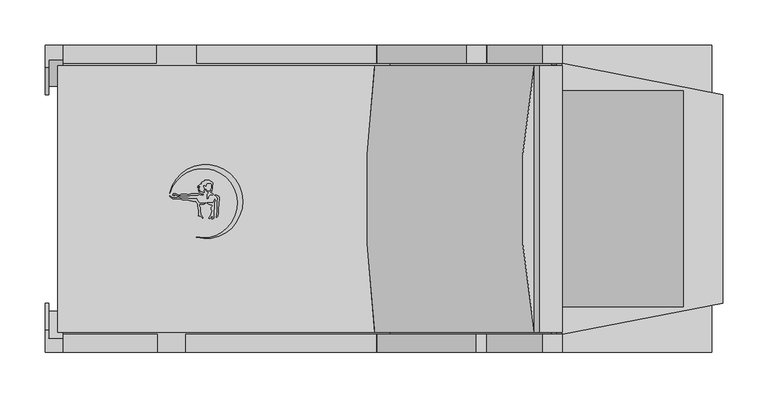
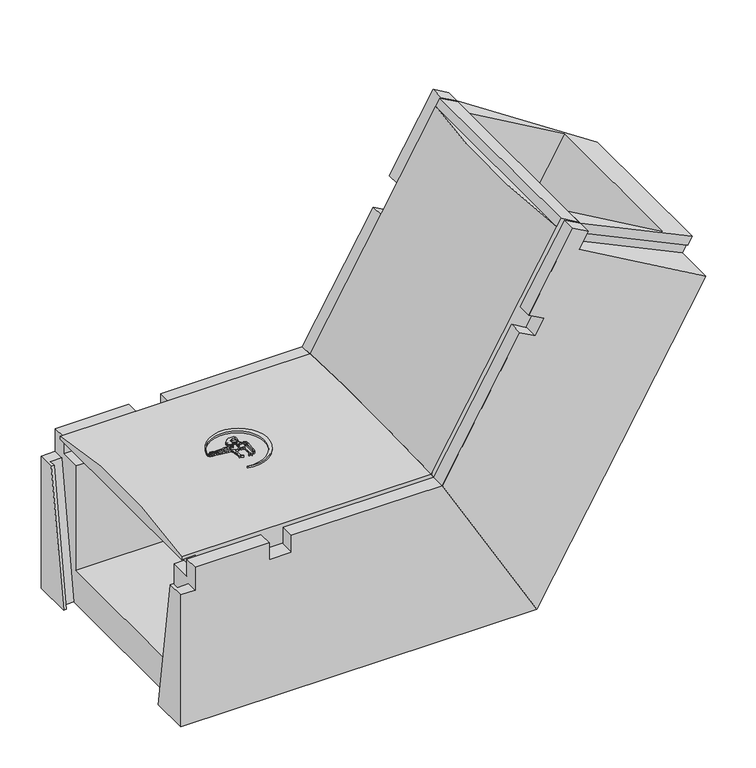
"""IFC4 building model written with IfcOpenShell, lengths in millimetres: cable carrier fitting geometry, Evotray type 2 vertical bend up : Evotray type 2 vertical bend up."""

from ifc_helpers import new_model, si_unit, point, frame, frame_2d, origin, place, context, project, spatial, polyline, circle_curve, ellipse_curve, trimmed, segment, composite_curve, outline, extrude, faceted_brep, source, transform, mapped, element, save
from ifc_brep_helpers import plane_surface, cylinder_surface, advanced_brep


def cable_carrier_fitting_7e4accfe(model_context):
    return source(origin(), model_context, "Body", "SolidModel", [
        extrude(outline(composite_curve([segment(polyline([(-200.1987673, 5.907559), (-198.7730763, 5.0844359), (-199.4820077, 4.6751342), (-202.0469375, 4.6751342), (-204.5064308, 2.2156409), (-204.5064308, 0.6319729), (-205.5639447, 0.3486129), (-205.8953119, 1.5852919), (-205.5730905, 2.7878385), (-205.5730905, 5.0146536), (-204.1065498, 6.4811943), (-204.5064308, 7.1738084), (-205.5730905, 7.7896447), (-206.4313624, 8.2851682), (-207.4244859, 9.2782918), (-207.4244859, 10.5283487), (-206.6366917, 10.0735155), (-205.5730905, 9.0099142), (-204.5064308, 8.394078), (-202.1936661, 8.394078), (-201.5617675, 9.0259766), (-201.5617675, 10.6343813), (-201.1559104, 11.3373462), (-200.9163405, 12.2314336), (-200.9163405, 16.3268685), (-201.5617675, 16.9722955), (-205.5730905, 17.3232408), (-206.3212546, 16.8912881), (-206.7531031, 16.1433045), (-206.9754965, 15.313321), (-207.2482129, 13.7666695), (-207.8042347, 14.3226912), (-208.3698905, 14.8883471), (-209.3304254, 14.8883471), (-209.8048648, 14.0665939), (-209.8048648, 13.2416885), (-209.4028177, 12.5453225), (-208.675123, 11.8176278), (-209.0717623, 10.3373496), (-209.4092623, 9.0777826), (-209.1064549, 7.3604762), (-209.907248, 7.2192748), (-211.6376932, 7.6829462), (-212.8844025, 8.2642963), (-213.6376597, 8.6155459), (-215.2371082, 8.33352), (-214.7695498, 9.1433549), (-213.1127288, 9.7463885)]), True, "CONTINUOUS"), segment(trimmed(circle_curve(frame_2d((-213.6788564, 9.4744491)), 0.6280537), [point((-213.1127288, 9.7463885))], [point((-213.8344386, 10.0829273))], True, "CARTESIAN"), True, "CONTINUOUS"), segment(polyline([(-213.8344386, 10.0829273), (-215.7814537, 10.0829273), (-215.2232755, 10.6411054), (-214.3724958, 10.9507639), (-213.5540563, 11.2486515)]), True, "CONTINUOUS"), segment(trimmed(circle_curve(frame_2d((-214.2923812, 11.2486515)), 0.7383249), [point((-213.5540563, 11.2486515))], [point((-214.2923812, 11.9869764))], True, "CARTESIAN"), True, "CONTINUOUS"), segment(polyline([(-214.2923812, 11.9869764), (-216.0001288, 11.9869764), (-216.3916504, 12.6651117), (-214.5730583, 12.9857785), (-213.2767203, 13.457607), (-213.897473, 14.0783597), (-215.8606925, 14.0783597), (-215.30811, 14.6309421), (-214.2782773, 15.2255163), (-213.603553, 15.9002407), (-212.8807357, 16.3175594), (-211.9057237, 16.8804829)]), True, "CONTINUOUS"), segment(trimmed(circle_curve(frame_2d((-212.1167091, 17.2459203)), 0.4219708), [point((-211.9057237, 16.8804829))], [point((-212.3276945, 17.6113577))], True, "CARTESIAN"), True, "CONTINUOUS"), segment(polyline([(-212.3276945, 17.6113577), (-211.7102978, 18.2287544), (-210.4076278, 18.7028875), (-209.4125713, 19.2773836), (-208.2810347, 19.4769041), (-208.6348604, 20.4490324), (-203.6348604, 20.4490324), (-202.6206866, 19.9761154), (-201.4988316, 19.6755153), (-200.4843855, 19.0898245), (-199.3757091, 17.9811481), (-199.3757091, 15.4151328), (-199.8646262, 14.5683035), (-199.8646262, 11.8362675), (-200.3536612, 10.7875287), (-200.760463, 10.0829273), (-200.760463, 8.2341629), (-201.5617675, 7.7715296), (-202.3950459, 7.6246001)]), True, "CONTINUOUS"), segment(trimmed(circle_curve(frame_2d((-201.3420944, 7.3424626)), 1.0900956), [point((-202.3950459, 7.6246001))], [point((-201.6242319, 6.2895111))], True, "CARTESIAN"), True, "CONTINUOUS"), segment(polyline([(-201.6242319, 6.2895111), (-200.1987673, 5.907559)]), True, "CONTINUOUS")], self_intersect=False)), frame((0.0, 0.0, 229.0645802), z_axis=(0.0, 0.0, 1.0), x_axis=(1.0, 0.0, 0.0)), (0.0, 0.0, 1.0), 22.5),
        extrude(outline(polyline([(-195.6420581, 3.0525563), (-197.5647021, 4.1625953), (-196.375462, 4.4812513), (-195.0006066, 3.9808448), (-192.8744575, 2.753312), (-192.462808, 1.2170154), (-192.462808, -1.5561738), (-192.8811889, -3.9289297), (-193.2073261, -13.2682758), (-193.2073261, -16.1231727), (-193.766974, -19.297094), (-194.9259981, -20.4561181), (-195.8234867, -20.4561181), (-195.1486125, -18.6019165), (-194.8396569, -16.8497423), (-194.3251997, -13.9321102), (-194.3251997, -2.6926455), (-193.883565, -0.1880111), (-194.4260419, 1.8365401), (-195.6420581, 3.0525563)])), frame((0.0, 0.0, 229.0645802), z_axis=(0.0, 0.0, 1.0), x_axis=(1.0, 0.0, 0.0)), (0.0, 0.0, 1.0), 22.5),
        extrude(outline(composite_curve([segment(polyline([(-203.070307, -4.5554644), (-201.0881056, -4.5554644), (-199.6198413, -4.2965698), (-198.3145593, -2.9912878), (-197.1344504, -0.4605362), (-196.6534984, -1.7819409), (-197.2762062, -3.117342), (-197.9468137, -4.5554644), (-197.9468137, -10.5136603), (-198.3751928, -12.943119), (-198.3751928, -21.4242609), (-199.8238515, -22.8729196), (-200.3965887, -22.3001824), (-199.7178687, -20.5578122), (-199.4597233, -19.0937972)]), True, "CONTINUOUS"), segment(trimmed(circle_curve(frame_2d((-199.8743713, -19.0937972)), 0.414648), [point((-199.4597233, -19.0937972))], [point((-200.2890194, -19.0937972))], True, "CARTESIAN"), True, "CONTINUOUS"), segment(polyline([(-200.2890194, -19.0937972), (-201.0547081, -19.8594859), (-202.3215546, -21.3692548), (-202.9770637, -22.0247639), (-203.7693849, -21.6552984), (-201.605165, -18.4467105), (-201.2992553, -16.7118106), (-200.4571975, -14.9060116), (-200.19999, -13.4473154), (-200.9884987, -12.0815782), (-200.9884987, -9.315031), (-199.6653502, -7.4454743)]), True, "CONTINUOUS"), segment(trimmed(circle_curve(frame_2d((-200.0024552, -7.2068937)), 0.4129897), [point((-199.6653502, -7.4454743))], [point((-200.2410358, -6.8697887))], True, "CARTESIAN"), True, "CONTINUOUS"), segment(polyline([(-200.2410358, -6.8697887), (-202.2448508, -6.516462), (-203.6887473, -5.843162), (-205.508748, -4.9944818), (-205.508748, -4.1255015), (-203.070307, -4.5554644)]), True, "CONTINUOUS")], self_intersect=False)), frame((0.0, 0.0, 229.0645802), z_axis=(0.0, 0.0, 1.0), x_axis=(1.0, 0.0, 0.0)), (0.0, 0.0, 1.0), 22.5),
        extrude(outline(composite_curve([segment(polyline([(-245.4819029, 2.2537302), (-243.7462291, 1.4443722), (-239.5597552, 1.4443722), (-238.4890341, 1.731271), (-237.1624965, 1.731271), (-235.4413877, 1.4443722), (-233.4350656, 0.9067798), (-232.2818775, 0.597784), (-226.5899708, 0.597784), (-223.9734749, 0.1616293), (-222.6459123, -0.19409), (-217.03167, -0.19409)]), True, "CONTINUOUS"), segment(trimmed(circle_curve(frame_2d((-208.1781038, 2.7115165)), 9.3181642), [point((-217.03167, -0.19409))], [point((-213.6774022, -4.8108435))], True, "CARTESIAN"), True, "CONTINUOUS"), segment(polyline([(-213.6774022, -4.8108435), (-210.6256174, -4.8108435), (-208.5910388, -4.632841), (-207.4520349, -4.1017147), (-207.7095548, -5.0627921), (-208.6536491, -5.6078652), (-209.612336, -5.9567987), (-212.847041, -5.8438403), (-214.0357356, -6.2764898), (-214.44473, -7.153581), (-214.3696494, -8.0117562), (-213.8907652, -8.8412079), (-213.1701597, -9.5618134), (-213.1701597, -11.3180259), (-213.53546, -12.3216801), (-213.3911934, -13.970655), (-212.8861011, -15.8556852), (-212.737982, -17.5486944), (-210.3666469, -20.2766033), (-210.5753239, -21.4600691), (-213.1701597, -18.8652332), (-214.1329913, -19.1232231), (-215.5361675, -18.8758053), (-215.2606072, -18.1187094), (-215.2606072, -15.8446539), (-215.0850033, -14.8487551), (-215.2606072, -12.8415943), (-215.6362696, -11.8094702), (-215.6362696, -9.9842873), (-216.0826053, -9.0271173), (-216.0826053, -6.6493678), (-216.3310455, -5.7221762), (-216.7830159, -4.9393406), (-217.2317276, -4.1621491), (-217.84617, -3.5477067), (-218.2800213, -2.6173096), (-221.8809595, -2.4915621), (-224.2251115, -2.1008055), (-226.2577048, -1.5561738), (-229.5993244, -1.2049554), (-231.6789374, -1.2049554), (-233.021172, -0.8453047), (-234.5447671, -0.4370587), (-235.8880204, 0.1893106), (-236.8824091, 0.1893106), (-239.5338495, 0.1893106), (-240.6460936, -0.1087143), (-242.5093755, 0.0871245), (-243.9984504, 0.3353447), (-245.6717579, 1.1156208), (-246.6476843, 2.0915471), (-247.2867674, 2.7306302), (-247.2867674, 3.5175099), (-245.4819029, 2.2537302)]), True, "CONTINUOUS")], self_intersect=False)), frame((0.0, 0.0, 229.0645802), z_axis=(0.0, 0.0, 1.0), x_axis=(1.0, 0.0, 0.0)), (0.0, 0.0, 1.0), 22.5),
        extrude(outline(composite_curve([segment(polyline([(-242.9796703, 3.7977023), (-241.956356, 3.2068915), (-243.6840165, 3.7265624), (-244.014163, 4.6441261), (-243.1758386, 5.4824506), (-240.30302, 5.4824506), (-239.318583, 5.0847122), (-238.2280942, 4.6441261), (-237.4299007, 4.1832889), (-236.1696706, 4.1832889), (-235.3486455, 4.4787), (-234.4633932, 4.9898007), (-228.0496883, 4.9898007), (-227.1941137, 4.6441261), (-226.1237116, 4.6441261), (-225.1629915, 4.9898007), (-223.9838348, 4.9898007), (-223.2654957, 5.4045339), (-217.8528405, 5.4045339), (-217.0925598, 5.6780888), (-215.8504018, 5.6780888), (-215.2746333, 6.2538574), (-213.3170698, 6.2538574), (-212.0290688, 5.7334711), (-211.0171524, 5.1492409), (-210.2127113, 4.8242256)]), True, "CONTINUOUS"), segment(trimmed(circle_curve(frame_2d((-210.6200436, 4.6596527)), 0.4393221), [point((-210.2127113, 4.8242256))], [point((-210.7846166, 4.2523203))], False, "CARTESIAN"), True, "CONTINUOUS"), segment(polyline([(-210.7846166, 4.2523203), (-211.8003453, 4.6627013), (-213.112003, 4.6627013), (-214.382433, 4.8867124), (-215.1944574, 4.5945398), (-216.3374314, 4.1832889), (-219.6816293, 4.1832889), (-220.4727027, 3.7265624), (-224.0400229, 3.7265624), (-224.9228853, 3.2168416), (-234.9228853, 3.2168416), (-237.5335493, 2.9884381), (-241.222077, 4.4787), (-243.3728446, 4.4787), (-242.9796703, 3.7977023)]), True, "CONTINUOUS")], self_intersect=False)), frame((0.0, 0.0, 229.0645802), z_axis=(0.0, 0.0, 1.0), x_axis=(1.0, 0.0, 0.0)), (0.0, 0.0, 1.0), 22.5),
        extrude(outline(composite_curve([segment(trimmed(circle_curve(frame_2d((-210.3994103, -4.8721323)), 38.3616107), [point((-217.8072471, -42.511701))], [point((-247.1109456, 6.2578432))], True, "CARTESIAN"), True, "CONTINUOUS"), segment(trimmed(circle_curve(frame_2d((-207.2700096, -2.9917986)), 40.900563), [point((-247.1109456, 6.2578432))], [point((-217.8072471, -42.511701))], False, "CARTESIAN"), True, "CONTINUOUS")], self_intersect=False)), frame((0.0, 0.0, 229.0645802), z_axis=(0.0, 0.0, 1.0), x_axis=(1.0, 0.0, 0.0)), (0.0, 0.0, 1.0), 22.5),
        advanced_brep(
        [(-3.3568052, -147.5, 205.0), (187.4647922, -147.5, 535.5127019), (162.3708892, -147.5, 550.0006735), (156.3708892, -147.5, 539.6083687), (-20.099963, -147.5, 234.0), (187.4647922, 147.5, 535.5127019), (-3.3568052, 147.5, 205.0), (-20.099963, 147.5, 234.0), (156.3500555, 147.5, 539.620397), (162.3708892, 147.5, 550.0006735)],
        [
            (0, 1),
            (1, 2),
            (2, 3),
            (3, 4),
            (4, 0),
            (5, 6),
            (6, 7),
            (7, 8),
            (8, 9),
            (9, 5),
            (1, 5),
            (9, 2),
            (6, 0),
            (4, 7, ellipse_curve(frame((347.3105378, 0.0, -402.3736546), z_axis=(-0.866025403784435, 0.0, -0.5000000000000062), x_axis=(-0.5000000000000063, 0.0, 0.8660254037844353)), 754.3011585, 653.2439654)),
            (8, 3),
            (8, 3, circle_curve(frame((707.4658067, 0.0, 221.4335697), z_axis=(0.5000000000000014, 0.0, 0.8660254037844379), x_axis=(0.0, -1.0, 0.0)), 653.2439654)),
        ],
        [
            plane_surface(frame((187.4647922, -147.5, 535.5127019), z_axis=(0.0, -1.0, 0.0), x_axis=(-0.8660254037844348, 0.0, 0.5000000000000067))),
            plane_surface(frame((187.4647922, 147.5, 535.5127019), z_axis=(0.0, 1.0, 0.0), x_axis=(0.8660254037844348, 0.0, -0.5000000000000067))),
            plane_surface(frame((187.4647922, -147.5, 535.5127019), z_axis=(0.5000000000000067, 0.0, 0.8660254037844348), x_axis=(0.0, 1.0, 0.0))),
            plane_surface(frame((-29.9149176, -147.5, 251.0), z_axis=(-0.866025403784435, 0.0, -0.5000000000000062), x_axis=(0.0, 1.0, 0.0))),
            plane_surface(frame((-3.3568052, -147.5, 205.0), z_axis=(0.866025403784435, 0.0, -0.5000000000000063), x_axis=(0.0, 1.0, 0.0))),
            plane_surface(frame((162.3708892, -147.5, 550.0006735), z_axis=(-0.8660254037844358, 0.0, 0.5000000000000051), x_axis=(-0.5000000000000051, 0.0, -0.8660254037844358))),
            plane_surface(frame((156.3708892, -147.5, 539.6083687), z_axis=(0.5000000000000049, 0.0, 0.8660254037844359), x_axis=(-0.8660254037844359, 0.0, 0.5000000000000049))),
            cylinder_surface(frame((529.2837374, 0.0, -87.1868273), z_axis=(0.5000000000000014, 0.0, 0.8660254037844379), x_axis=(0.0, -1.0, 0.0)), 653.2439654),
        ],
        [
            (0, [[1, 2, 3, 4, 5]]),
            (1, [[6, 7, 8, 9, 10]]),
            (2, [[11, -10, 12, -2]]),
            (3, [[13, -5, 14, -7]]),
            (4, [[-1, -13, -6, -11]]),
            (5, [[15, -3, -12, -9]]),
            (6, [[-15, 16]]),
            (7, [[-4, -16, -8, -14]]),
        ],
    ),
        advanced_brep(
        [(-351.0, -147.5, 205.0), (-3.3568052, -147.5, 205.0), (-20.099963, -147.5, 234.0), (-371.0, -147.5, 234.0), (-371.0, -147.5, 230.0), (-351.0, -147.5, 230.0), (-3.3568052, 147.5, 205.0), (-351.0, 147.5, 205.0), (-351.0, 147.5, 230.0), (-371.0, 147.5, 230.0), (-371.0, 147.5, 234.0), (-20.099963, 147.5, 234.0)],
        [
            (0, 1),
            (1, 2),
            (2, 3),
            (3, 4),
            (4, 5),
            (5, 0),
            (6, 7),
            (7, 8),
            (8, 9),
            (9, 10),
            (10, 11),
            (11, 6),
            (9, 4),
            (3, 10, circle_curve(frame((-371.0, 0.0, -402.3736546), z_axis=(-1.0, 0.0, 0.0), x_axis=(0.0, -1.0, 0.0)), 653.2439654)),
            (6, 1),
            (0, 7),
            (11, 2, ellipse_curve(frame((347.3105378, 0.0, -402.3736546), z_axis=(0.8660254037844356, 0.0, 0.5000000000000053), x_axis=(0.5000000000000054, 0.0, -0.8660254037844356)), 754.3011585, 653.2439654)),
            (8, 5),
        ],
        [
            plane_surface(frame((-371.0, -147.5, 205.0), z_axis=(0.0, -1.0, 0.0), x_axis=(0.0, 0.0, -1.0))),
            plane_surface(frame((-371.0, 147.5, 205.0), z_axis=(0.0, 1.0, 0.0), x_axis=(0.0, 0.0, 1.0))),
            plane_surface(frame((-371.0, -147.5, 251.0), z_axis=(-1.0, 0.0, 0.0), x_axis=(0.0, 1.0, 0.0))),
            plane_surface(frame((-371.0, -147.5, 205.0), z_axis=(0.0, 0.0, -1.0), x_axis=(0.0, 1.0, 0.0))),
            plane_surface(frame((-3.3568052, -147.5, 205.0), z_axis=(0.8660254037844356, 0.0, 0.5000000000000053), x_axis=(0.0, 1.0, 0.0))),
            plane_surface(frame((-371.0, 147.5, 230.0), z_axis=(0.0, 0.0, -1.0), x_axis=(-1.0, 0.0, 0.0))),
            plane_surface(frame((-351.0, -147.5, 230.0), z_axis=(-1.0, 0.0, 0.0), x_axis=(0.0, 0.0, -1.0))),
            cylinder_surface(frame((-371.0, 0.0, -402.3736546), z_axis=(1.0, 0.0, 0.0), x_axis=(0.0, -1.0, 0.0)), 653.2439654),
        ],
        [
            (0, [[1, 2, 3, 4, 5, 6]]),
            (1, [[7, 8, 9, 10, 11, 12]]),
            (2, [[13, -4, 14, -10]]),
            (3, [[15, -1, 16, -7]]),
            (4, [[-15, -12, 17, -2]]),
            (5, [[18, -5, -13, -9]]),
            (6, [[-18, -8, -16, -6]]),
            (7, [[-3, -17, -11, -14]]),
        ],
    ),
        faceted_brep([(-17.7905619, -170.0, 230.0), (115.0, -170.0, 0.0), (352.5, -170.0, 411.3620668), (174.9647922, -170.0, 513.8620668), (187.4647922, -170.0, 535.5127019), (165.8141571, -170.0, 548.0127019), (103.8141571, -170.0, 440.6255518), (125.4647922, -170.0, 428.1255518), (112.9647922, -170.0, 406.4749167), (91.3141571, -170.0, 418.9749167), (115.0, 170.0, 0.0), (-17.7905619, 170.0, 230.0), (81.8141571, 170.0, 402.5204341), (103.4647922, 170.0, 390.0204341), (125.9647922, 170.0, 428.9915772), (104.3141571, 170.0, 441.4915772), (165.8141571, 170.0, 548.0127019), (187.4647922, 170.0, 535.5127019), (174.9647922, 170.0, 513.8620668), (352.5, 170.0, 411.3620668), (187.4647922, -120.0, 535.5127019), (187.4647922, -150.0, 535.5127019), (365.0, -115.4, 433.0127019), (365.0, 115.4, 433.0127019), (187.4647922, 150.0, 535.5127019), (187.4647922, 120.0, 535.5127019), (321.6987298, 120.0, 458.0127019), (321.6987298, -120.0, 458.0127019), (165.8141571, -150.0, 548.0127019), (165.8141571, 150.0, 548.0127019), (103.8141571, -150.0, 440.6255518), (104.3141571, 150.0, 441.4915772), (-17.7905619, -150.0, 230.0), (91.3141571, -150.0, 418.9749167), (-17.7905619, 150.0, 230.0), (81.8141571, 150.0, 402.5204341), (-3.3568052, -150.0, 205.0), (-3.3568052, -120.0, 205.0), (86.1324865, -120.0, 50.0), (86.1324865, 120.0, 50.0), (-3.3568052, 120.0, 205.0), (-3.3568052, 150.0, 205.0), (352.5, 113.0, 411.3620668), (358.5, 113.0, 421.7543716), (358.5, 115.4, 421.7543716), (358.5, -115.4, 421.7543716), (358.5, -113.0, 421.7543716), (352.5, -113.0, 411.3620668), (180.9647922, -150.0, 524.2543716), (174.9647922, -150.0, 513.8620668), (125.4647922, -150.0, 428.1255518), (112.9647922, -150.0, 406.4749167), (125.9647922, 150.0, 428.9915772), (174.9647922, 150.0, 513.8620668), (180.9647922, 150.0, 524.2543716), (103.4647922, 150.0, 390.0204341), (174.9647922, -147.6, 513.8620668), (180.9647922, -147.6, 524.2543716), (180.9647922, 147.6, 524.2543716), (174.9647922, 147.6, 513.8620668)], [[[0, 1, 2, 3, 4, 5, 6, 7, 8, 9]], [[10, 11, 12, 13, 14, 15, 16, 17, 18, 19]], [[20, 21, 22, 23, 24, 25, 26, 27]], [[28, 5, 4, 21]], [[16, 29, 24, 17]], [[5, 28, 30, 6]], [[29, 16, 15, 31]], [[32, 0, 9, 33]], [[11, 34, 35, 12]], [[1, 0, 32, 36, 37, 38, 39, 40, 41, 34, 11, 10]], [[1, 10, 19, 42, 43, 44, 23, 22, 45, 46, 47, 2]], [[28, 21, 48, 49, 50, 30]], [[36, 32, 33, 51]], [[24, 29, 31, 52, 53, 54]], [[34, 41, 55, 35]], [[37, 36, 51, 8, 7, 50, 49, 56, 57, 48, 21, 20]], [[41, 40, 25, 24, 54, 58, 59, 53, 52, 14, 13, 55]], [[27, 38, 37, 20]], [[39, 26, 25, 40]], [[38, 27, 26, 39]], [[48, 21, 4, 3, 49]], [[21, 48, 45, 22]], [[24, 54, 53, 18, 17]], [[54, 24, 23, 44]], [[46, 57, 56, 47]], [[47, 56, 49, 3, 2]], [[57, 46, 45, 48]], [[42, 59, 58, 43]], [[59, 42, 19, 18, 53]], [[43, 58, 54, 44]], [[55, 13, 12, 35]], [[14, 52, 31, 15]], [[50, 7, 6, 30]], [[8, 51, 33, 9]]]),
        faceted_brep([(-385.0, -170.0, 0.0), (115.0, -170.0, 0.0), (-17.7905619, -170.0, 230.0), (-229.6518259, -170.0, 230.0), (-229.6518259, -170.0, 205.0), (-261.0, -170.0, 205.0), (-261.0, -170.0, 230.0), (-365.0130369, -170.0, 230.0), (-365.0130369, -170.0, 196.0), (-385.0, -170.0, 196.0), (-17.7905619, 170.0, 230.0), (115.0, 170.0, 0.0), (-385.0, 170.0, 0.0), (-385.0, 170.0, 196.0), (-365.0130369, 170.0, 196.0), (-365.0130369, 170.0, 230.0), (-262.0, 170.0, 230.0), (-262.0, 170.0, 205.0), (-217.0, 170.0, 205.0), (-217.0, 170.0, 230.0), (-17.7905619, -150.0, 230.0), (-229.6518259, -150.0, 230.0), (-17.7905619, 150.0, 230.0), (-217.0, 150.0, 230.0), (-365.0130369, -150.0, 230.0), (-261.0, -150.0, 230.0), (-365.0130369, 150.0, 230.0), (-262.0, 150.0, 230.0), (-385.0, -115.45, 0.0), (-385.0, -144.8926087, 196.0), (-385.0, 115.45, 0.0), (-385.0, 144.8926087, 196.0), (-381.0, -115.45, 0.0), (-381.0, -124.6, 0.0), (-365.0, -124.6, 0.0), (-365.0, 124.6, 0.0), (-381.0, 124.6, 0.0), (-381.0, 115.45, 0.0), (-3.3568052, 150.0, 205.0), (-3.3568052, 120.0, 205.0), (86.1324865, 120.0, 50.0), (86.1324865, -120.0, 50.0), (-3.3568052, -120.0, 205.0), (-3.3568052, -150.0, 205.0), (-381.0, 144.8926087, 196.0), (-381.0, -144.8926087, 196.0), (-365.0, 154.0426087, 196.0), (-381.0, 154.0426087, 196.0), (-381.0, -154.0426087, 196.0), (-365.0, -154.0426087, 196.0), (-365.0, -150.0, 205.0), (-365.0, -147.5, 205.0), (-365.0, -120.0, 205.0), (-365.0, -120.0, 50.0), (-365.0, 120.0, 50.0), (-365.0, 120.0, 205.0), (-365.0, 147.5, 205.0), (-365.0, 150.0, 205.0), (-229.6518259, -150.0, 205.0), (-261.0, -150.0, 205.0), (-217.0, 150.0, 205.0), (-262.0, 150.0, 205.0), (-351.0, 120.0, 205.0), (-351.0, -120.0, 205.0)], [[[0, 1, 2, 3, 4, 5, 6, 7, 8, 9]], [[10, 11, 12, 13, 14, 15, 16, 17, 18, 19]], [[2, 20, 21, 3]], [[22, 10, 19, 23]], [[24, 7, 6, 25]], [[15, 26, 27, 16]], [[28, 0, 9, 29]], [[12, 30, 31, 13]], [[1, 0, 28, 32, 33, 34, 35, 36, 37, 30, 12, 11]], [[2, 1, 11, 10, 22, 38, 39, 40, 41, 42, 43, 20]], [[30, 37, 44, 31]], [[32, 28, 29, 45]], [[36, 35, 46, 47]], [[33, 32, 45, 48]], [[37, 36, 47, 44]], [[34, 33, 48, 49]], [[35, 34, 49, 8, 7, 24, 50, 51, 52, 53, 54, 55, 56, 57, 26, 15, 14, 46]], [[8, 49, 48, 45, 29, 9]], [[46, 14, 13, 31, 44, 47]], [[20, 43, 58, 21]], [[50, 24, 25, 59]], [[38, 22, 23, 60]], [[26, 57, 61, 27]], [[39, 38, 60, 18, 17, 61, 57, 56, 55, 62]], [[43, 42, 63, 52, 51, 50, 59, 5, 4, 58]], [[41, 53, 52, 63, 42]], [[54, 40, 39, 62, 55]], [[53, 41, 40, 54]], [[61, 17, 16, 27]], [[18, 60, 23, 19]], [[5, 59, 25, 6]], [[58, 4, 3, 21]]]),
    ])


if __name__ == "__main__":
    model = new_model("IFC4")
    model_context = context("Model", 3, world=origin())
    ifc_project = project(units=[si_unit("LENGTHUNIT", "METRE", prefix="MILLI")], contexts=[model_context])
    site = spatial("IfcSite", under=ifc_project)
    building = spatial("IfcBuilding", under=site)
    placement = place(None, origin())
    cable_carrier_fitting_shape = cable_carrier_fitting_7e4accfe(model_context)
    element("IfcCableCarrierFitting", 1, ObjectType="Evotray type 2 vertical bend up : Evotray type 2 vertical bend up", at=placement, inside=building, context=model_context, shape_type="MappedRepresentation", body=[
        mapped(cable_carrier_fitting_shape, transform((0.0, 0.0, 0.0), x_axis=(1.0, 0.0, 0.0), y_axis=(0.0, 1.0, 0.0), z_axis=(0.0, 0.0, 1.0))),
    ])
    save(model, "model.ifc")
